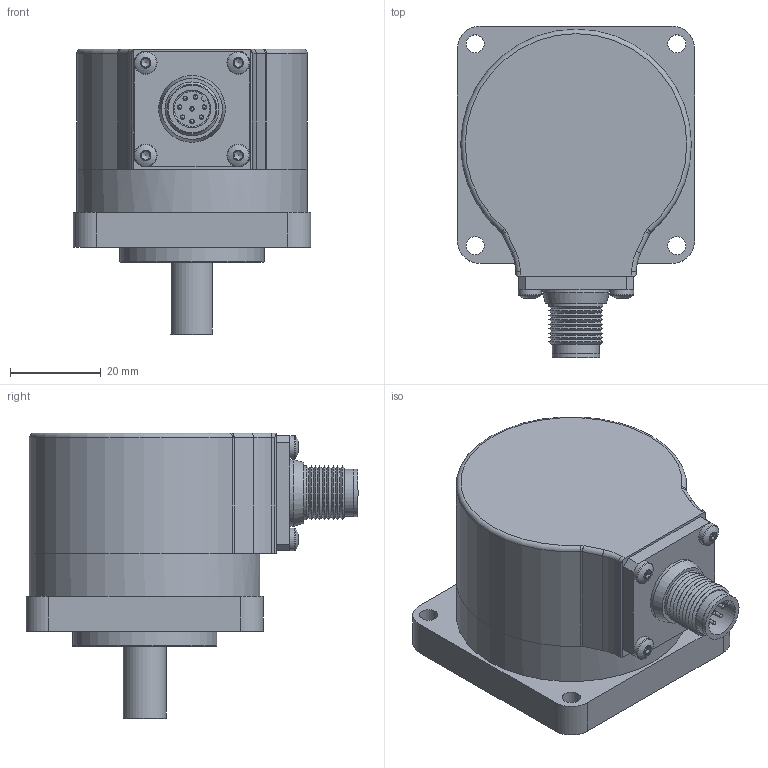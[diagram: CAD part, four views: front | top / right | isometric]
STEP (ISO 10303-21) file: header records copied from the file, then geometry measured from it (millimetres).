
FILE_DESCRIPTION((''),'2;1');
FILE_NAME('C:\TurckZip\T8-5000-M12-Radial-SquareFlange-2.0.stp','2008-08-05T09:56:58',('IKOROL'),(''),'Autodesk Inventor 2008','Autodesk Inventor 2008','');
FILE_SCHEMA(('CONFIG_CONTROL_DESIGN'));
Length unit declared in the file: millimetre
Products named in the file (1): Part1
Bounding box: 52.3 x 73.15 x 63 mm (x, y, z)
Volume: 102655.9 mm3; surface area: 21315.7 mm2
Topology: 1 solids, 7 shells, 421 faces, 1001 edges, 588 vertices
Faces by surface type: cylinder 195, plane 112, cone 48, bspline 35, torus 19, sphere 12
Full cylindrical faces by diameter (mm): 0.8 x16, 1.4 x8, 2.2 x4, 2.3 x4, 2.5 x4, 4 x12, 4.368 x1, 5 x4, 8 x1, 8.3 x1, 9 x1, 9.6 x1, 9.9 x1, 10.4 x1, 10.5 x1, 11.9 x1, 13.499 x1, 14.539 x1, 14.7 x1, 20.737 x1, 21.821 x1, 26.12 x1, 27.127 x1, 31.74 x1, 50.8 x1
Entity records: 11944 total; most frequent: CARTESIAN_POINT 3215, DIRECTION 1830, ORIENTED_EDGE 1482, AXIS2_PLACEMENT_3D 794, EDGE_CURVE 741, EDGE_LOOP 652, VERTEX_POINT 509, FACE_OUTER_BOUND 421
